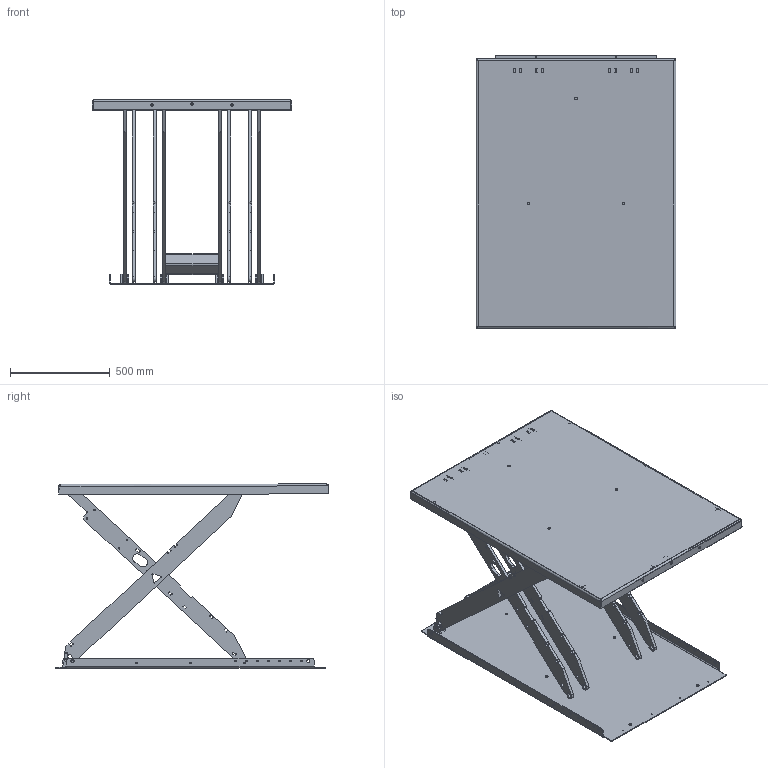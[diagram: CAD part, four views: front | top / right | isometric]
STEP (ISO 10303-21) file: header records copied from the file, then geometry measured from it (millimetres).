
FILE_DESCRIPTION(/* description */ ('TCL 2000 B 1350x1000'),/* implementation_level */ '2;1');
FILE_NAME(/* name */ '\\EDMOFILE01\Users$\JOHSO\Desktop\601904_Elevated.stp',/* time_stamp */ '2017-03-24T08:13:25+01:00',/* author */ ('johso'),/* organization */ (''),/* preprocessor_version */ 'ST-DEVELOPER v16.5',/* originating_system */ 'Autodesk Inventor 2017',/* authorisation */ '');
FILE_SCHEMA (('AUTOMOTIVE_DESIGN { 1 0 10303 214 3 1 1 }'));
Length unit declared in the file: millimetre
Products named in the file (16): 601303.tmp; 601295; 601294; 601292; 602256; 601260; 36532; 82149; 36533; 36534; 602748; 602749; 45411; ISO 4014 - M6 x 35; 44572; 45087
Assembly tree (43 placements, depth 5):
  601303.tmp
    601295
      601294
      45411  x8
    601292
      602256
        601260  x2
          36532
        82149
      36533  x2
        36534
    602748
      602749
      45411  x8
      ISO 4014 - M6 x 35  x6
      44572  x2
      45087  x4
Bounding box: 1000 x 1366.5 x 921.49 mm (x, y, z)
Volume: 26056134.5 mm3; surface area: 7791232 mm2
Topology: 39 solids, 39 shells, 2068 faces, 5815 edges, 3853 vertices
Faces by surface type: cylinder 1192, plane 798, cone 42, bspline 36
Full cylindrical faces by diameter (mm): 5 x8, 5.5 x9, 6 x6, 7.4 x12, 8.5 x4, 8.88 x6, 9 x6, 12 x3, 12.5 x6, 13 x8, 15 x16, 16 x4, 26.2 x8
Entity records: 31258 total; most frequent: CARTESIAN_POINT 6032, DIRECTION 5330, ORIENTED_EDGE 5082, EDGE_CURVE 2541, AXIS2_PLACEMENT_3D 1929, VERTEX_POINT 1715, LINE 1472, VECTOR 1472
